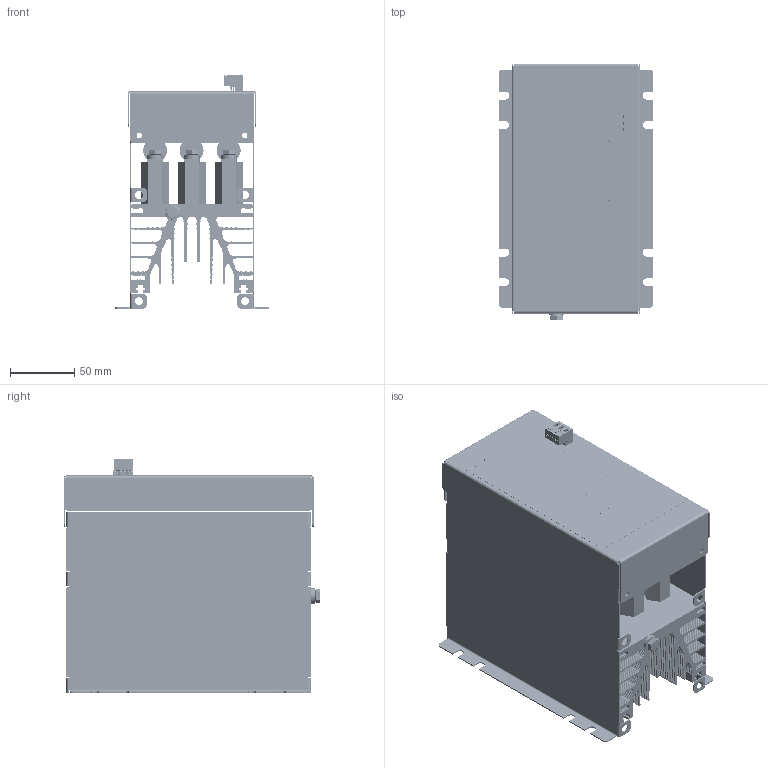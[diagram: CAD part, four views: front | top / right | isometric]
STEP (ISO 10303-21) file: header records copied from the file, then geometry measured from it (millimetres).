
FILE_DESCRIPTION(('STEP AP203'), '1');
FILE_NAME('ÌÒÊ 26-50-480 ÓÕË4', '2025-05-20T12:35:02', (''), ('ÎÎÎ "Ìåàíäð"'), 'C3D Converter', 'C3D Toolkit', '');
FILE_SCHEMA(('CONFIG_CONTROL_DESIGN'));
Length unit declared in the file: millimetre
Products named in the file (3): МТК; Болт М6х14; 26-50-480
Assembly tree (11 placements, depth 2):
  МТК
    Болт М6х14  x10
    26-50-480
Bounding box: 120 x 199.21 x 181.05 mm (x, y, z)
Volume: 676845.1 mm3; surface area: 498412.5 mm2
Topology: 12 solids, 18 shells, 7188 faces, 20983 edges, 13942 vertices
Faces by surface type: plane 3916, cylinder 2188, extrusion 941, bspline 53, torus 50, cone 36, sphere 4
Full cylindrical faces by diameter (mm): 3.3 x4, 3.9 x3, 4.2 x4, 5 x2, 6 x20, 6.1 x12, 6.4 x10, 8 x1, 8.8 x1, 8.9 x10, 12 x10, 14 x3, 18.5 x6
Entity records: 305053 total; most frequent: CARTESIAN_POINT 70428, ORIENTED_EDGE 39564, DIRECTION 34615, EDGE_CURVE 19782, VECTOR 14547, LINE 13606, VERTEX_POINT 13190, AXIS2_PLACEMENT_3D 10034
